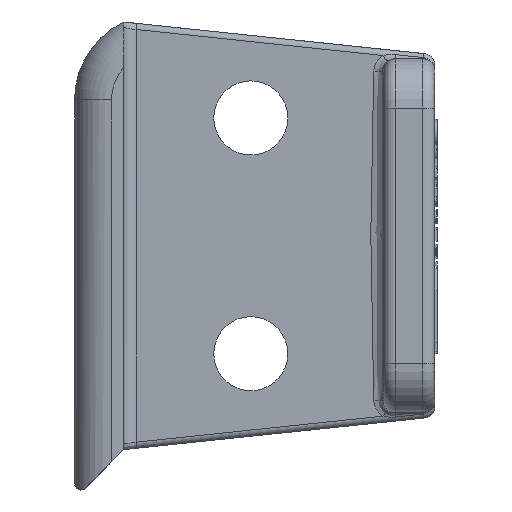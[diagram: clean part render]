
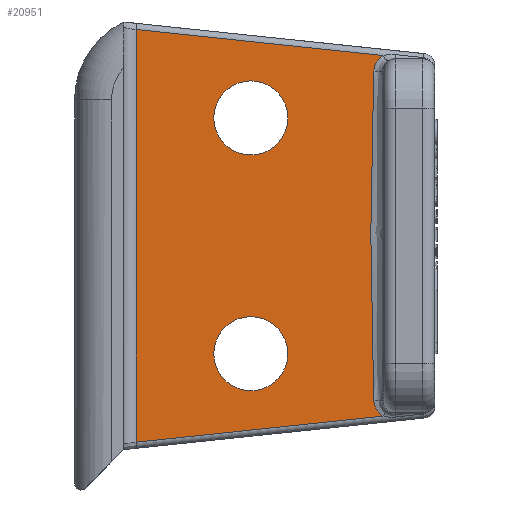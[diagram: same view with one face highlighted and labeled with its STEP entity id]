
A CAD part, left-side view. The second image highlights one B-rep face of the part: STEP entity #20951.
In plain terms, the highlighted planar face has unit normal (-1, 0, 0).
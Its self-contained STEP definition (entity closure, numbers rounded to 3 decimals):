
#6853=CARTESIAN_POINT('',(-15.95,-21.005,-16.767));
#6890=CARTESIAN_POINT('',(-15.95,-1.,
14.557));
#6916=CARTESIAN_POINT('',(-15.95,-1.,
-18.869));
#7177=CARTESIAN_POINT('',(-15.95,-10.3,-11.706));
#7178=DIRECTION('',(-1.,0.,0.));
#7179=DIRECTION('',(0.,1.,0.));
#7180=AXIS2_PLACEMENT_3D('',#7177,#7178,#7179);
#7182=CARTESIAN_POINT('',(-15.95,-10.3,-11.706));
#7183=DIRECTION('',(-1.,0.,0.));
#7184=DIRECTION('',(0.,-1.,0.));
#7185=AXIS2_PLACEMENT_3D('',#7182,#7183,#7184);
#7187=CARTESIAN_POINT('',(-15.95,-10.3,7.394));
#7188=DIRECTION('',(-1.,0.,0.));
#7189=DIRECTION('',(0.,1.,0.));
#7190=AXIS2_PLACEMENT_3D('',#7187,#7188,#7189);
#7192=CARTESIAN_POINT('',(-15.95,-10.3,7.394));
#7193=DIRECTION('',(-1.,0.,0.));
#7194=DIRECTION('',(0.,-1.,0.));
#7195=AXIS2_PLACEMENT_3D('',#7192,#7193,#7194);
#7197=CARTESIAN_POINT('',(-15.95,-20.255,-15.506));
#7198=CARTESIAN_POINT('',(-15.95,-20.258,
-15.537));
#7199=CARTESIAN_POINT('',(-15.95,-20.266,
-15.598));
#7200=CARTESIAN_POINT('',(-15.95,-20.281,
-15.688));
#7201=CARTESIAN_POINT('',(-15.95,-20.302,
-15.777));
#7202=CARTESIAN_POINT('',(-15.95,-20.327,
-15.865));
#7203=CARTESIAN_POINT('',(-15.95,-20.356,
-15.951));
#7204=CARTESIAN_POINT('',(-15.95,-20.39,
-16.034));
#7205=CARTESIAN_POINT('',(-15.95,-20.428,
-16.116));
#7206=CARTESIAN_POINT('',(-15.95,-20.47,-16.195));
#7207=CARTESIAN_POINT('',(-15.95,-20.516,-16.272));
#7208=CARTESIAN_POINT('',(-15.95,-20.566,
-16.345));
#7209=CARTESIAN_POINT('',(-15.95,-20.619,
-16.416));
#7210=CARTESIAN_POINT('',(-15.95,-20.676,
-16.483));
#7211=CARTESIAN_POINT('',(-15.95,-20.736,
-16.548));
#7212=CARTESIAN_POINT('',(-15.95,-20.799,
-16.608));
#7213=CARTESIAN_POINT('',(-15.95,-20.865,
-16.665));
#7214=CARTESIAN_POINT('',(-15.95,-20.934,
-16.718));
#7215=CARTESIAN_POINT('',(-15.95,-20.981,
-16.751));
#7216=CARTESIAN_POINT('',(-15.95,-21.005,-16.767));
#7218=DIRECTION('',(0.,-0.995,0.105));
#7219=VECTOR('',#7218,20.115);
#7220=CARTESIAN_POINT('',(-15.95,-1.,
-18.869));
#7221=LINE('',#7220,#7219);
#7222=DIRECTION('',(0.,0.,-1.));
#7223=VECTOR('',#7222,33.426);
#7224=CARTESIAN_POINT('',(-15.95,-1.,
14.557));
#7225=LINE('',#7224,#7223);
#7226=DIRECTION('',(0.,0.995,0.105));
#7227=VECTOR('',#7226,20.115);
#7228=CARTESIAN_POINT('',(-15.95,-21.005,12.455));
#7229=LINE('',#7228,#7227);
#7230=CARTESIAN_POINT('',(-15.95,-21.005,12.455));
#7231=CARTESIAN_POINT('',(-15.95,-20.981,
12.439));
#7232=CARTESIAN_POINT('',(-15.95,-20.934,
12.406));
#7233=CARTESIAN_POINT('',(-15.95,-20.865,
12.353));
#7234=CARTESIAN_POINT('',(-15.95,-20.799,
12.296));
#7235=CARTESIAN_POINT('',(-15.95,-20.736,
12.235));
#7236=CARTESIAN_POINT('',(-15.95,-20.676,
12.171));
#7237=CARTESIAN_POINT('',(-15.95,-20.619,
12.103));
#7238=CARTESIAN_POINT('',(-15.95,-20.565,
12.032));
#7239=CARTESIAN_POINT('',(-15.95,-20.516,11.959));
#7240=CARTESIAN_POINT('',(-15.95,-20.47,11.882));
#7241=CARTESIAN_POINT('',(-15.95,-20.428,
11.803));
#7242=CARTESIAN_POINT('',(-15.95,-20.39,
11.721));
#7243=CARTESIAN_POINT('',(-15.95,-20.356,
11.638));
#7244=CARTESIAN_POINT('',(-15.95,-20.327,
11.552));
#7245=CARTESIAN_POINT('',(-15.95,-20.302,
11.465));
#7246=CARTESIAN_POINT('',(-15.95,-20.281,
11.376));
#7247=CARTESIAN_POINT('',(-15.95,-20.266,
11.285));
#7248=CARTESIAN_POINT('',(-15.95,-20.258,
11.225));
#7249=CARTESIAN_POINT('',(-15.95,-20.255,11.194));
#7251=CARTESIAN_POINT('',(-15.95,-20.255,11.194));
#7252=CARTESIAN_POINT('',(-15.95,-20.227,10.897));
#7253=CARTESIAN_POINT('',(-15.95,-20.174,10.259));
#7254=CARTESIAN_POINT('',(-15.95,-20.108,9.194));
#7255=CARTESIAN_POINT('',(-15.95,-20.059,7.959));
#7256=CARTESIAN_POINT('',(-15.95,-20.029,6.547));
#7257=CARTESIAN_POINT('',(-15.95,-20.019,4.941));
#7258=CARTESIAN_POINT('',(-15.95,-20.02,3.154));
#7259=CARTESIAN_POINT('',(-15.95,-20.02,1.228));
#7260=CARTESIAN_POINT('',(-15.95,-20.02,-0.84));
#7261=CARTESIAN_POINT('',(-15.95,-20.02,-3.081));
#7262=CARTESIAN_POINT('',(-15.95,-20.02,-5.44));
#7263=CARTESIAN_POINT('',(-15.95,-20.02,-7.457));
#7264=CARTESIAN_POINT('',(-15.95,-20.019,-9.255));
#7265=CARTESIAN_POINT('',(-15.95,-20.029,-10.858));
#7266=CARTESIAN_POINT('',(-15.95,-20.059,-12.271));
#7267=CARTESIAN_POINT('',(-15.95,-20.108,-13.506));
#7268=CARTESIAN_POINT('',(-15.95,-20.174,-14.571));
#7269=CARTESIAN_POINT('',(-15.95,-20.227,-15.209));
#7270=CARTESIAN_POINT('',(-15.95,-20.255,-15.506));
#7786=CARTESIAN_POINT('',(-15.95,-7.3,-11.706));
#7787=CARTESIAN_POINT('',(-15.95,-13.3,-11.706));
#7788=VERTEX_POINT('',#7786);
#7789=VERTEX_POINT('',#7787);
#7790=CARTESIAN_POINT('',(-15.95,-7.3,7.394));
#7791=CARTESIAN_POINT('',(-15.95,-13.3,7.394));
#7792=VERTEX_POINT('',#7790);
#7793=VERTEX_POINT('',#7791);
#9311=VERTEX_POINT('',#6890);
#9327=VERTEX_POINT('',#6916);
#9401=VERTEX_POINT('',#6853);
#9403=VERTEX_POINT('',#7197);
#9405=VERTEX_POINT('',#7251);
#9407=VERTEX_POINT('',#7230);
#20925=CARTESIAN_POINT('',(-15.95,0.,0.));
#20926=DIRECTION('',(1.,0.,0.));
#20927=DIRECTION('',(0.,1.,0.));
#20928=AXIS2_PLACEMENT_3D('',#20925,#20926,#20927);
#20929=PLANE('',#20928);
#20931=ORIENTED_EDGE('',*,*,#20930,.T.);
#20932=ORIENTED_EDGE('',*,*,#20444,.F.);
#20933=ORIENTED_EDGE('',*,*,#20522,.F.);
#20934=ORIENTED_EDGE('',*,*,#19962,.F.);
#20936=ORIENTED_EDGE('',*,*,#20935,.T.);
#20938=ORIENTED_EDGE('',*,*,#20937,.T.);
#20939=EDGE_LOOP('',(#20931,#20932,#20933,#20934,#20936,#20938));
#20940=FACE_OUTER_BOUND('',#20939,.F.);
#20942=ORIENTED_EDGE('',*,*,#20941,.T.);
#20944=ORIENTED_EDGE('',*,*,#20943,.T.);
#20945=EDGE_LOOP('',(#20942,#20944));
#20946=FACE_BOUND('',#20945,.F.);
#20947=ORIENTED_EDGE('',*,*,#20905,.T.);
#20948=ORIENTED_EDGE('',*,*,#20919,.T.);
#20949=EDGE_LOOP('',(#20947,#20948));
#20950=FACE_BOUND('',#20949,.F.);
#20951=ADVANCED_FACE('',(#20940,#20946,#20950),#20929,.F.);
#7181=CIRCLE('',#7180,3.);
#7186=CIRCLE('',#7185,3.);
#7191=CIRCLE('',#7190,3.);
#7196=CIRCLE('',#7195,3.);
#7217=B_SPLINE_CURVE_WITH_KNOTS('',3,(#7197,#7198,#7199,#7200,#7201,#7202,#7203,
#7204,#7205,#7206,#7207,#7208,#7209,#7210,#7211,#7212,#7213,#7214,#7215,#7216),
.UNSPECIFIED.,.F.,.F.,(4,1,1,1,1,1,1,1,1,1,1,1,1,1,1,1,1,4),(0.,
0.059,0.118,0.176,0.235,
0.294,0.353,0.412,0.471,
0.529,0.588,0.647,0.706,
0.765,0.824,0.882,0.941,1.),
.UNSPECIFIED.);
#7250=B_SPLINE_CURVE_WITH_KNOTS('',3,(#7230,#7231,#7232,#7233,#7234,#7235,#7236,
#7237,#7238,#7239,#7240,#7241,#7242,#7243,#7244,#7245,#7246,#7247,#7248,#7249),
.UNSPECIFIED.,.F.,.F.,(4,1,1,1,1,1,1,1,1,1,1,1,1,1,1,1,1,4),(0.,
0.059,0.118,0.176,0.235,
0.294,0.353,0.412,0.471,
0.529,0.588,0.647,0.706,
0.765,0.824,0.882,0.941,1.),
.UNSPECIFIED.);
#7271=B_SPLINE_CURVE_WITH_KNOTS('',3,(#7251,#7252,#7253,#7254,#7255,#7256,#7257,
#7258,#7259,#7260,#7261,#7262,#7263,#7264,#7265,#7266,#7267,#7268,#7269,#7270),
.UNSPECIFIED.,.F.,.F.,(4,1,1,1,1,1,1,1,1,1,1,1,1,1,1,1,1,4),(0.,
0.059,0.118,0.176,0.235,
0.294,0.353,0.412,0.471,
0.529,0.588,0.647,0.706,
0.765,0.824,0.882,0.941,1.),
.UNSPECIFIED.);
#19962=EDGE_CURVE('',#9407,#9311,#7229,.T.);
#20444=EDGE_CURVE('',#9327,#9401,#7221,.T.);
#20522=EDGE_CURVE('',#9311,#9327,#7225,.T.);
#20905=EDGE_CURVE('',#7788,#7789,#7181,.T.);
#20919=EDGE_CURVE('',#7789,#7788,#7186,.T.);
#20930=EDGE_CURVE('',#9403,#9401,#7217,.T.);
#20935=EDGE_CURVE('',#9407,#9405,#7250,.T.);
#20937=EDGE_CURVE('',#9405,#9403,#7271,.T.);
#20941=EDGE_CURVE('',#7792,#7793,#7191,.T.);
#20943=EDGE_CURVE('',#7793,#7792,#7196,.T.);
